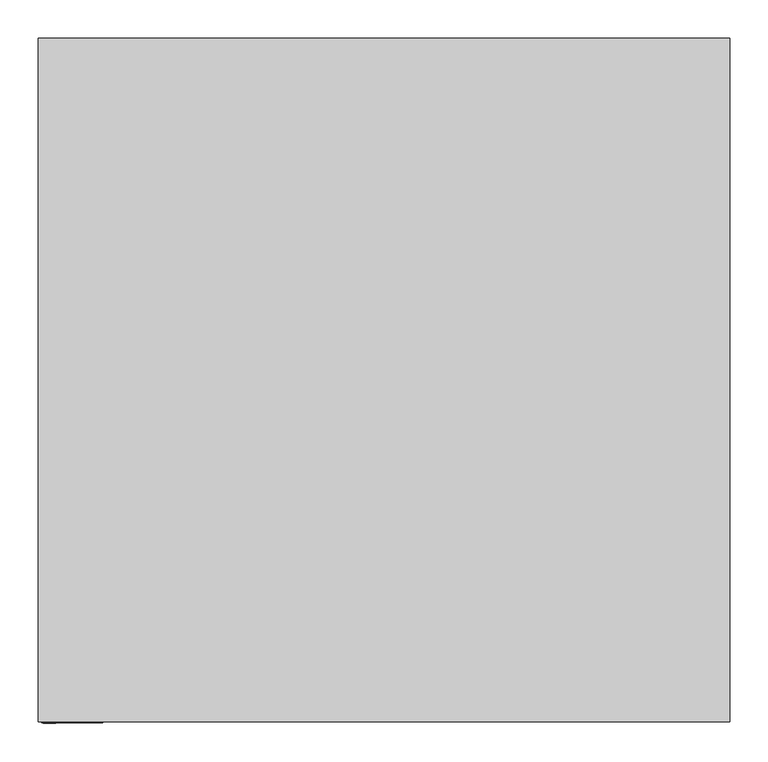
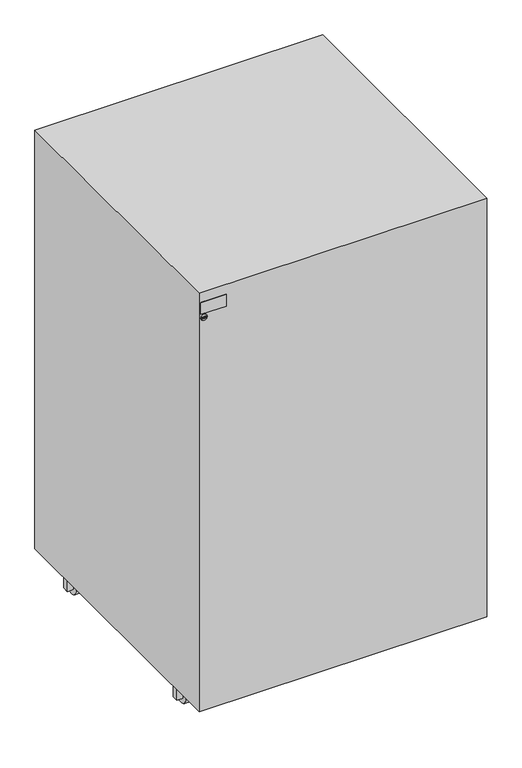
"""IFC4 building model written with IfcOpenShell, lengths in millimetres: proxy geometry, НВО_КНС_ИБПTrioTM_DKC : TRIOTM15A120."""

from ifc_helpers import new_model, si_unit, point, frame, frame_2d, origin, place, context, project, spatial, polyline, circle_curve, trimmed, segment, composite_curve, outline, extrude, source, transform, mapped, element, save


def electrical_equipment_383dc071(model_context):
    return source(origin(), model_context, "Body", "SweptSolid", [
        extrude(outline(polyline([(50.3347717, -389.6652283), (35.0, -405.0), (20.0, -405.0), (20.0, -385.0), (70.0, -385.0), (70.0, -389.6652283), (50.3347717, -389.6652283)])), frame((0.0, 740.0, 0.0), z_axis=(0.0, 1.0, 0.0), x_axis=(0.0, 0.0, 1.0)), (0.0, 0.0, 1.0), 20.0),
        extrude(outline(polyline([(50.3347717, -440.3347717), (70.0, -440.3347717), (70.0, -445.0), (20.0, -445.0), (20.0, -425.0), (35.0, -425.0), (50.3347717, -440.3347717)])), frame((0.0, 740.0, 0.0), z_axis=(0.0, 1.0, 0.0), x_axis=(0.0, 0.0, 1.0)), (0.0, 0.0, 1.0), 20.0),
        extrude(outline(composite_curve([segment(trimmed(circle_curve(frame_2d((750.0, 25.0)), 25.0), [point((775.0, 25.0))], [point((725.0, 25.0))], False, "CARTESIAN"), True, "CONTINUOUS"), segment(trimmed(circle_curve(frame_2d((750.0, 25.0)), 25.0), [point((725.0, 25.0))], [point((775.0, 25.0))], False, "CARTESIAN"), True, "CONTINUOUS")], self_intersect=False)), frame((-425.0, 0.0, 0.0), z_axis=(1.0, 0.0, 0.0), x_axis=(0.0, 1.0, 0.0)), (0.0, 0.0, 1.0), 20.0),
        extrude(outline(polyline([(50.3347717, -389.6652283), (35.0, -405.0), (20.0, -405.0), (20.0, -385.0), (70.0, -385.0), (70.0, -389.6652283), (50.3347717, -389.6652283)])), frame((0.0, 140.0, 0.0), z_axis=(0.0, 1.0, 0.0), x_axis=(0.0, 0.0, 1.0)), (0.0, 0.0, 1.0), 20.0),
        extrude(outline(polyline([(50.3347717, -440.3347717), (70.0, -440.3347717), (70.0, -445.0), (20.0, -445.0), (20.0, -425.0), (35.0, -425.0), (50.3347717, -440.3347717)])), frame((0.0, 140.0, 0.0), z_axis=(0.0, 1.0, 0.0), x_axis=(0.0, 0.0, 1.0)), (0.0, 0.0, 1.0), 20.0),
        extrude(outline(composite_curve([segment(trimmed(circle_curve(frame_2d((150.0, 25.0)), 25.0), [point((175.0, 25.0))], [point((125.0, 25.0))], False, "CARTESIAN"), True, "CONTINUOUS"), segment(trimmed(circle_curve(frame_2d((150.0, 25.0)), 25.0), [point((125.0, 25.0))], [point((175.0, 25.0))], False, "CARTESIAN"), True, "CONTINUOUS")], self_intersect=False)), frame((-425.0, 0.0, 0.0), z_axis=(1.0, 0.0, 0.0), x_axis=(0.0, 1.0, 0.0)), (0.0, 0.0, 1.0), 20.0),
        extrude(outline(polyline([(50.3347717, 440.3347717), (35.0, 425.0), (20.0, 425.0), (20.0, 445.0), (70.0, 445.0), (70.0, 440.3347717), (50.3347717, 440.3347717)])), frame((0.0, 740.0, 0.0), z_axis=(0.0, 1.0, 0.0), x_axis=(0.0, 0.0, 1.0)), (0.0, 0.0, 1.0), 20.0),
        extrude(outline(polyline([(50.3347717, 389.6652283), (70.0, 389.6652283), (70.0, 385.0), (20.0, 385.0), (20.0, 405.0), (35.0, 405.0), (50.3347717, 389.6652283)])), frame((0.0, 740.0, 0.0), z_axis=(0.0, 1.0, 0.0), x_axis=(0.0, 0.0, 1.0)), (0.0, 0.0, 1.0), 20.0),
        extrude(outline(composite_curve([segment(trimmed(circle_curve(frame_2d((750.0, 25.0)), 25.0), [point((775.0, 25.0))], [point((725.0, 25.0))], False, "CARTESIAN"), True, "CONTINUOUS"), segment(trimmed(circle_curve(frame_2d((750.0, 25.0)), 25.0), [point((725.0, 25.0))], [point((775.0, 25.0))], False, "CARTESIAN"), True, "CONTINUOUS")], self_intersect=False)), frame((405.0, 0.0, 0.0), z_axis=(1.0, 0.0, 0.0), x_axis=(0.0, 1.0, 0.0)), (0.0, 0.0, 1.0), 20.0),
        extrude(outline(polyline([(50.3347717, 440.3347717), (35.0, 425.0), (20.0, 425.0), (20.0, 445.0), (70.0, 445.0), (70.0, 440.3347717), (50.3347717, 440.3347717)])), frame((0.0, 140.0, 0.0), z_axis=(0.0, 1.0, 0.0), x_axis=(0.0, 0.0, 1.0)), (0.0, 0.0, 1.0), 20.0),
        extrude(outline(polyline([(50.3347717, 389.6652283), (70.0, 389.6652283), (70.0, 385.0), (20.0, 385.0), (20.0, 405.0), (35.0, 405.0), (50.3347717, 389.6652283)])), frame((0.0, 140.0, 0.0), z_axis=(0.0, 1.0, 0.0), x_axis=(0.0, 0.0, 1.0)), (0.0, 0.0, 1.0), 20.0),
        extrude(outline(composite_curve([segment(trimmed(circle_curve(frame_2d((150.0, 25.0)), 25.0), [point((175.0, 25.0))], [point((125.0, 25.0))], False, "CARTESIAN"), True, "CONTINUOUS"), segment(trimmed(circle_curve(frame_2d((150.0, 25.0)), 25.0), [point((125.0, 25.0))], [point((175.0, 25.0))], False, "CARTESIAN"), True, "CONTINUOUS")], self_intersect=False)), frame((405.0, 0.0, 0.0), z_axis=(1.0, 0.0, 0.0), x_axis=(0.0, 1.0, 0.0)), (0.0, 0.0, 1.0), 20.0),
        extrude(outline(polyline([(1382.0, -448.1463789), (1382.0, -445.967046), (1382.103007, -444.9980448), (1382.9520786, -443.7273804), (1383.829845, -443.3153525), (1385.0460629, -443.154956), (1386.4793312, -443.391872), (1387.5094008, -444.1055631), (1387.9405585, -444.9914229), (1388.0273786, -446.0671099), (1388.0273786, -448.1463789), (1382.0, -448.1463789)]), holes=[polyline([(1382.7534223, -447.3929566), (1387.2739563, -447.3929566), (1387.2739563, -446.0803536), (1387.153291, -445.0120243), (1386.4852173, -444.2299072), (1385.0578351, -443.9083783), (1383.9181367, -444.0724537), (1382.8623154, -445.0900153), (1382.7534223, -446.0597522), (1382.7534223, -447.3929566)])]), frame((0.0, -2.0, 0.0), z_axis=(0.0, 1.0, 0.0), x_axis=(0.0, 0.0, 1.0)), (0.0, 0.0, 1.0), 6.0),
        extrude(outline(polyline([(1382.0, -441.7422891), (1384.0719114, -441.365578), (1385.0401768, -440.3502237), (1382.0, -438.0487539), (1382.0, -437.1275774), (1385.5493255, -439.816059), (1388.0273786, -437.2217552), (1388.0273786, -438.2753692), (1385.076965, -441.365578), (1388.0273786, -442.1190003), (1382.0, -441.7422891)])), frame((0.0, -2.0, 0.0), z_axis=(0.0, 1.0, 0.0), x_axis=(0.0, 0.0, 1.0)), (0.0, 0.0, 1.0), 6.0),
        extrude(outline(polyline([(1384.1425447, -432.3245101), (1383.0330126, -432.963889), (1382.6592445, -434.1168311), (1382.9336845, -435.1564657), (1383.7628905, -435.8642706), (1385.0607782, -436.0916217), (1386.180611, -435.8995873), (1387.0458694, -435.2337209), (1387.3681341, -434.055027), (1387.0775073, -433.0367296), (1386.3307068, -431.6652655), (1387.652139, -432.5165445), (1388.1215564, -434.0255964), (1387.7588248, -435.4735799), (1386.6971173, -436.4881985), (1385.0593067, -436.845044), (1383.4479835, -436.5294013), (1382.3016632, -435.6096963), (1381.9058222, -434.0417832), (1382.4289504, -432.4643052), (1384.1425447, -432.3245101)])), frame((0.0, -2.0, 0.0), z_axis=(0.0, 1.0, 0.0), x_axis=(0.0, 0.0, 1.0)), (0.0, 0.0, 1.0), 6.0),
        extrude(outline(composite_curve([segment(trimmed(circle_curve(frame_2d((1385.0, -440.0)), 10.0), [point((1385.0, -450.0))], [point((1385.0, -430.0))], False, "CARTESIAN"), True, "CONTINUOUS"), segment(trimmed(circle_curve(frame_2d((1385.0, -440.0)), 10.0), [point((1385.0, -430.0))], [point((1385.0, -450.0))], False, "CARTESIAN"), True, "CONTINUOUS")], self_intersect=False)), frame((0.0, -1.0, 0.0), z_axis=(0.0, 1.0, 0.0), x_axis=(0.0, 0.0, 1.0)), (0.0, 0.0, 1.0), 10.0),
        extrude(outline(polyline([(455.0, 0.0), (-455.0, 0.0), (-455.0, 900.0), (455.0, 900.0), (455.0, 0.0)])), frame((0.0, 0.0, 70.0), z_axis=(0.0, 0.0, 1.0), x_axis=(1.0, 0.0, 0.0)), (0.0, 0.0, 1.0), 1400.0),
        extrude(outline(polyline([(-370.0, -1.0), (-450.0, -1.0), (-450.0, 0.0), (-370.0, 0.0), (-370.0, -1.0)])), frame((0.0, 0.0, 1398.0), z_axis=(0.0, 0.0, 1.0), x_axis=(1.0, 0.0, 0.0)), (0.0, 0.0, 1.0), 40.0),
    ])


if __name__ == "__main__":
    model = new_model("IFC4")
    model_context = context("Model", 3, world=origin())
    ifc_project = project(units=[si_unit("LENGTHUNIT", "METRE", prefix="MILLI")], contexts=[model_context])
    site = spatial("IfcSite", under=ifc_project)
    building = spatial("IfcBuilding", under=site)
    placement = place(None, origin())
    electrical_equipment_shape = electrical_equipment_383dc071(model_context)
    element("IfcBuildingElementProxy", 1, Name="НВО_КНС_ИБПTrioTM_DKC : TRIOTM15A120", ObjectType="НВО_КНС_ИБПTrioTM_DKC : TRIOTM15A120", at=placement, inside=building, context=model_context, shape_type="MappedRepresentation", body=[
        mapped(electrical_equipment_shape, transform((0.0, 0.0, 0.0), x_axis=(1.0, 0.0, 0.0), y_axis=(0.0, 1.0, 0.0), z_axis=(0.0, 0.0, 1.0))),
    ])
    save(model, "model.ifc")
